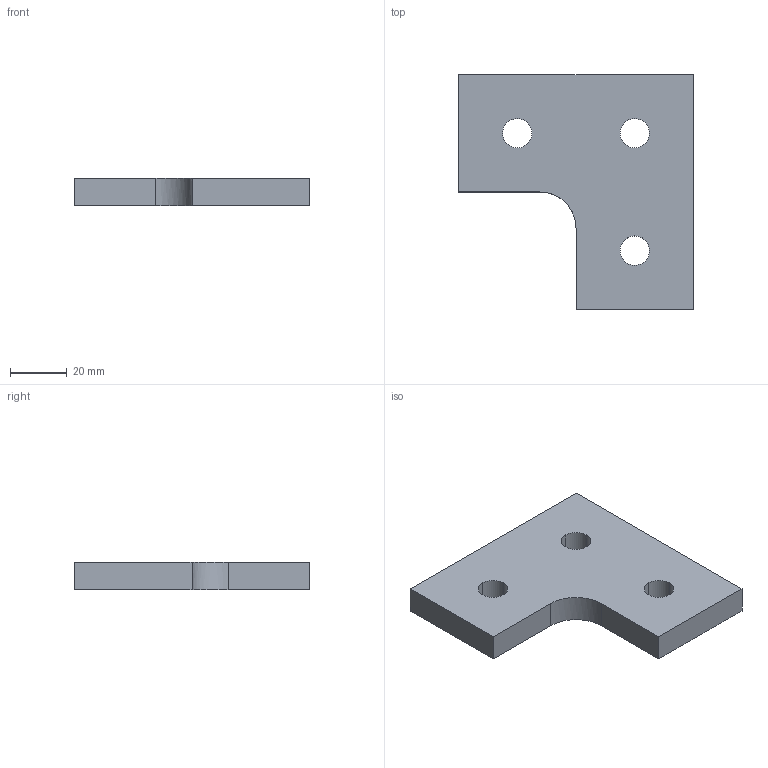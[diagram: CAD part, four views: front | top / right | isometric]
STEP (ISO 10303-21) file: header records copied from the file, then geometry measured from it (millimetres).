
FILE_DESCRIPTION(('TurboCAD Mac Pro'),'Build 980');
FILE_NAME('F20P-2508.stp',' ',(''),(''),'ACIS Interop','IMSI','TurboCAD Mac Pro BY IMSI, INCORPORATED');
FILE_SCHEMA(('automotive_design'));
Length unit declared in the file: inch
Products named in the file (2): 1; 2
Bounding box: 82.55 x 82.54 x 9.53 mm (x, y, z)
Volume: 46641.7 mm3; surface area: 13810.1 mm2
Topology: 1 solids, 1 shells, 21 faces, 57 edges, 38 vertices
Faces by surface type: bspline 13, plane 8
Entity records: 1192 total; most frequent: CARTESIAN_POINT 345, ORIENTED_EDGE 114, DIRECTION 57, EDGE_CURVE 57, STYLED_ITEM 41, PRESENTATION_STYLE_ASSIGNMENT 41, COLOUR_RGB 41, B_SPLINE_CURVE_WITH_KNOTS 39
